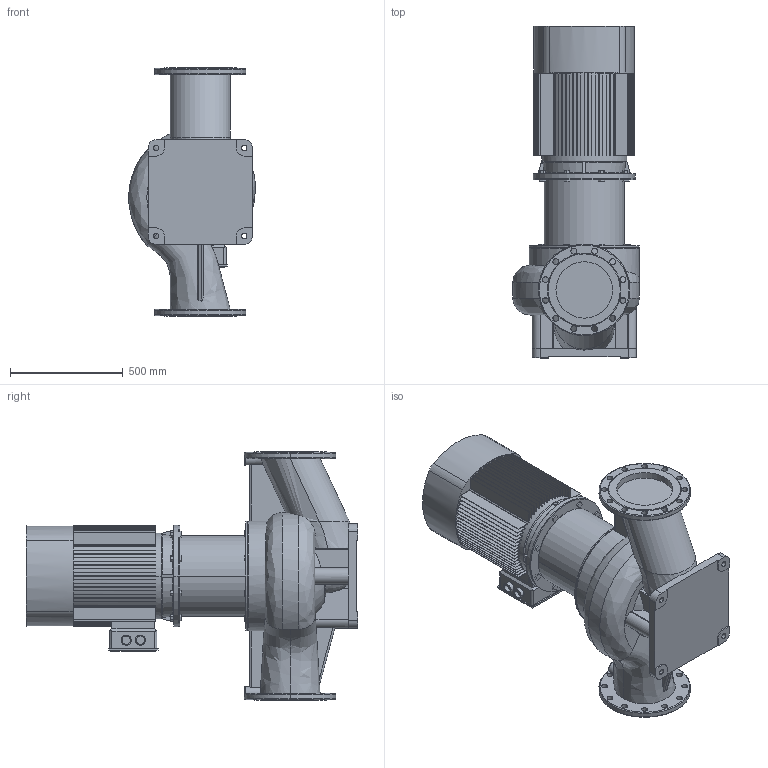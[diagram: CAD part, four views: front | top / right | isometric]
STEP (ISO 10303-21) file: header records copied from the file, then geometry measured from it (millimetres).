
FILE_DESCRIPTION (( 'STEP AP203' ), '1' );
FILE_NAME ('TD250-19_4.STEP', '2022-05-02T18:05:18', ( '' ), ( '' ), 'SwSTEP 2.0', 'SolidWorks 2019', '' );
FILE_SCHEMA (( 'CONFIG_CONTROL_DESIGN' ));
Length unit declared in the file: millimetre
Products named in the file (4): ED_B5_YE2-225S-4 (37); Pr_ch 250_TD250-19_4; Fon_250_TD250-19_4; TD250-19_4
Assembly tree (3 placements, depth 2):
  TD250-19_4
    Pr_ch 250_TD250-19_4
    Fon_250_TD250-19_4
    ED_B5_YE2-225S-4 (37)
Bounding box: 560.98 x 1469 x 1100 mm (x, y, z)
Volume: 219727911 mm3; surface area: 6888813 mm2
Topology: 5 solids, 7 shells, 817 faces, 2247 edges, 1490 vertices
Faces by surface type: plane 558, cylinder 187, torus 34, bspline 21, cone 17
Entity records: 35438 total; most frequent: CARTESIAN_POINT 13741, ORIENTED_EDGE 4494, DIRECTION 4415, EDGE_CURVE 2247, AXIS2_PLACEMENT_3D 1515, VERTEX_POINT 1490, LINE 1385, VECTOR 1385
